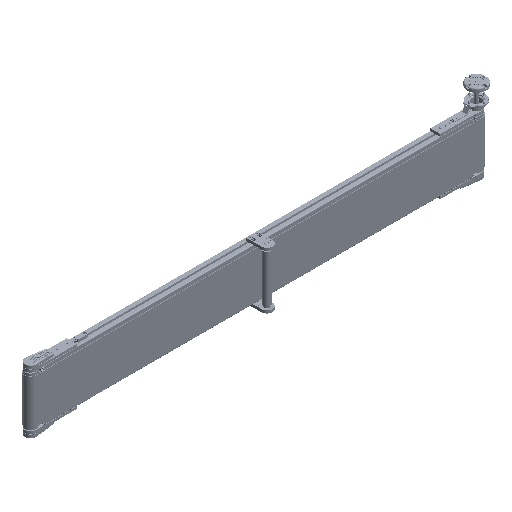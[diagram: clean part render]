
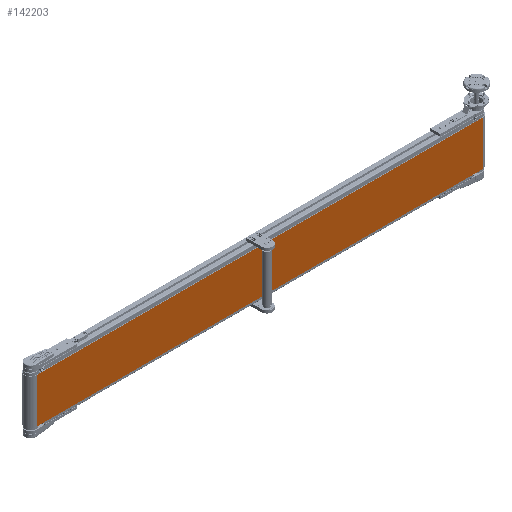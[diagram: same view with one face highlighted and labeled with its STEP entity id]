
A CAD part, isometric view. The second image highlights one B-rep face of the part: STEP entity #142203.
In plain terms, the highlighted planar face has unit normal (0, -1, 0).
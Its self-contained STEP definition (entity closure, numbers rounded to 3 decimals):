
#6259 = AXIS2_PLACEMENT_3D ( 'NONE', #20615, #89231, #31793 ) ;
#6927 = VERTEX_POINT ( 'NONE', #143388 ) ;
#7337 = CARTESIAN_POINT ( 'NONE',  ( 1000., -27., 100. ) ) ;
#9135 = VERTEX_POINT ( 'NONE', #20701 ) ;
#18896 = CARTESIAN_POINT ( 'NONE',  ( -1000., -27., 100. ) ) ;
#20615 = CARTESIAN_POINT ( 'NONE',  ( -1000., -27., 100. ) ) ;
#20701 = CARTESIAN_POINT ( 'NONE',  ( 1000., -27., -100. ) ) ;
#25870 = DIRECTION ( 'NONE',  ( 1., 0., 0. ) ) ;
#28328 = LINE ( 'NONE', #36549, #112292 ) ;
#31793 = DIRECTION ( 'NONE',  ( 0., 0., 1. ) ) ;
#33277 = FACE_OUTER_BOUND ( 'NONE', #86598, .T. ) ;
#34094 = CARTESIAN_POINT ( 'NONE',  ( -1000., -27., -100. ) ) ;
#36549 = CARTESIAN_POINT ( 'NONE',  ( -1000., -27., 100. ) ) ;
#36606 = LINE ( 'NONE', #37349, #101984 ) ;
#37349 = CARTESIAN_POINT ( 'NONE',  ( -1000., -27., 100. ) ) ;
#38076 = DIRECTION ( 'NONE',  ( 0., 0., -1. ) ) ;
#41432 = ORIENTED_EDGE ( 'NONE', *, *, #52405, .T. ) ;
#48429 = ORIENTED_EDGE ( 'NONE', *, *, #96511, .F. ) ;
#51774 = VERTEX_POINT ( 'NONE', #141824 ) ;
#52405 = EDGE_CURVE ( 'NONE', #57505, #6927, #36606, .T. ) ;
#53407 = PLANE ( 'NONE',  #6259 ) ;
#56791 = EDGE_CURVE ( 'NONE', #6927, #9135, #128044, .T. ) ;
#57505 = VERTEX_POINT ( 'NONE', #18896 ) ;
#62821 = ORIENTED_EDGE ( 'NONE', *, *, #56791, .T. ) ;
#82081 = DIRECTION ( 'NONE',  ( 1., 0., 0. ) ) ;
#84951 = ORIENTED_EDGE ( 'NONE', *, *, #103108, .F. ) ;
#86598 = EDGE_LOOP ( 'NONE', ( #62821, #84951, #48429, #41432 ) ) ;
#89231 = DIRECTION ( 'NONE',  ( 0., 1., 0. ) ) ;
#96511 = EDGE_CURVE ( 'NONE', #57505, #51774, #28328, .T. ) ;
#101984 = VECTOR ( 'NONE', #38076, 1000. ) ;
#103108 = EDGE_CURVE ( 'NONE', #51774, #9135, #120753, .T. ) ;
#105811 = VECTOR ( 'NONE', #108089, 1000. ) ;
#108089 = DIRECTION ( 'NONE',  ( 0., 0., -1. ) ) ;
#112292 = VECTOR ( 'NONE', #82081, 1000. ) ;
#120753 = LINE ( 'NONE', #7337, #105811 ) ;
#128044 = LINE ( 'NONE', #34094, #140820 ) ;
#140820 = VECTOR ( 'NONE', #25870, 1000. ) ;
#141824 = CARTESIAN_POINT ( 'NONE',  ( 1000., -27., 100. ) ) ;
#142203 = ADVANCED_FACE ( 'NONE', ( #33277 ), #53407, .F. ) ;
#143388 = CARTESIAN_POINT ( 'NONE',  ( -1000., -27., -100. ) ) ;
